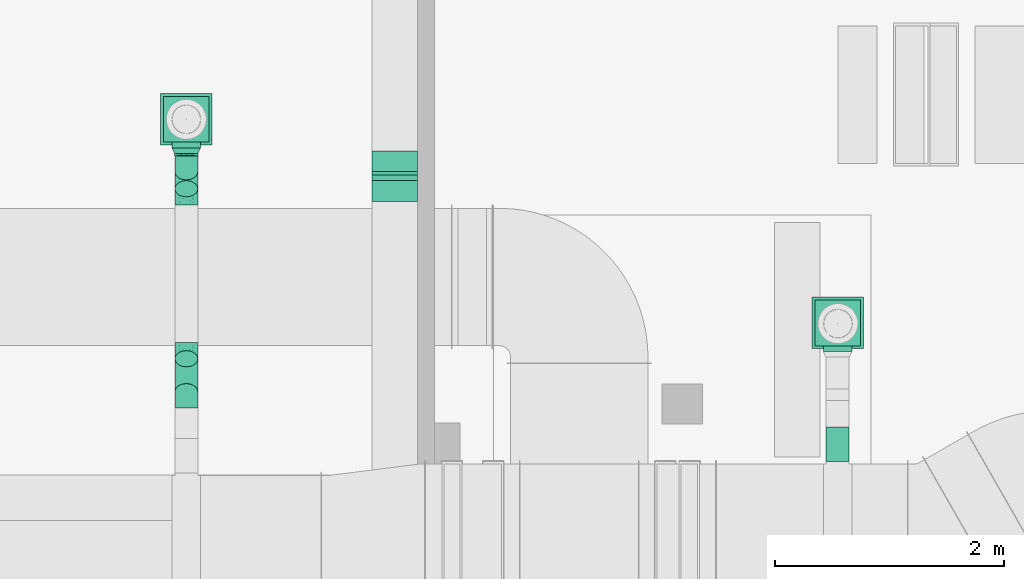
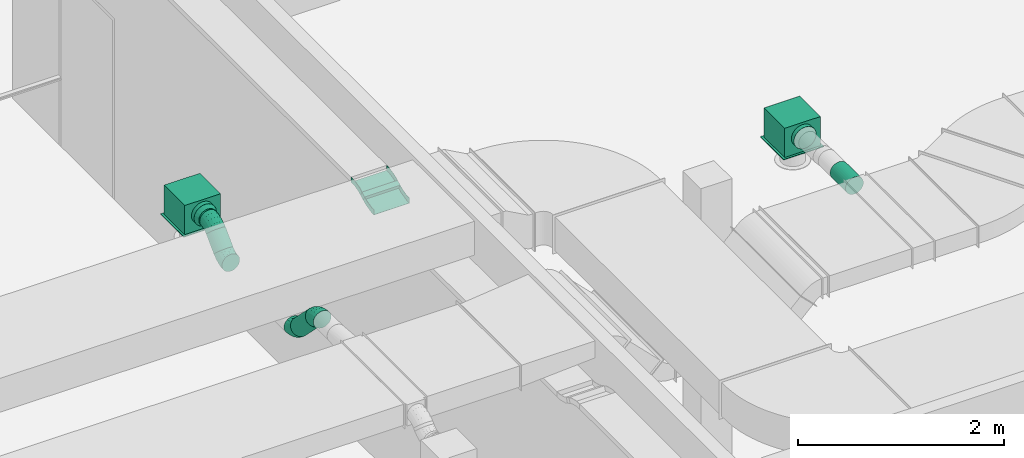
# One storey, part 280 of 302: 8 flow fittings, 4 flow segments, 2 flow terminals.
"""IFC2X3 building model written with IfcOpenShell, lengths in metres."""

import ifcopenshell
import ifcopenshell.guid

model = None  # the IFC model being written
_history = None  # IfcOwnerHistory: only IFC2X3 demands one
_inside = {}  # id of a spatial element -> (the spatial element, [elements in it])
_under = {}  # id of a project, library or spatial element -> (it, [spatial elements below it])
_declared = {}  # id of a project -> (the project, [libraries it declares])
_typed = {}  # id of a type object -> (the type object, [elements of that type])
_made_of = {}  # id of a material, layer set ... -> (it, [elements and type objects made of it])


def new_model(schema):
    """Start an empty IFC model of exactly this schema.

    Asked for "IFC4X3", IfcOpenShell would pick the latest addendum, in which some entities
    have other attributes; the version numbers below select the first issue.
    IFC2X3 requires an IfcOwnerHistory on every rooted entity: one is made here for all.
    """
    global model, _history
    if schema == "IFC4X3":
        model = ifcopenshell.file(schema_version=(4, 3, 0, 0))
    else:
        model = ifcopenshell.file(schema=schema)
    _inside.clear()
    _under.clear()
    _declared.clear()
    _typed.clear()
    _made_of.clear()
    _history = None
    if model.schema == "IFC2X3":
        org = make("IfcOrganization", Name="unknown")
        user = make(
            "IfcPersonAndOrganization",
            ThePerson=make("IfcPerson", FamilyName="unknown"),
            TheOrganization=org,
        )
        app = make(
            "IfcApplication",
            ApplicationDeveloper=org,
            Version="unknown",
            ApplicationFullName="unknown",
            ApplicationIdentifier="unknown",
        )
        _history = make(
            "IfcOwnerHistory",
            OwningUser=user,
            OwningApplication=app,
            ChangeAction="ADDED",
            CreationDate=0,
        )
    return model


def make(cls, **values):
    """One entity of the class cls with the attributes given. An attribute that is None is left unset."""
    return model.create_entity(
        cls, **{name: value for name, value in values.items() if value is not None}
    )


def entity(cls, *values):
    """Any entity or typed value of the class cls, its attributes in the order of the schema. None: left unset."""
    e = model.create_entity(cls)
    for i, value in enumerate(values):
        if value is not None:
            e[i] = value
    return e


def rooted(cls, **values):
    """An entity with a GlobalId (a new one), such as an element, a storey or a relation."""
    return make(cls, GlobalId=ifcopenshell.guid.new(), OwnerHistory=_history, **values)


def si_unit(unit_type, name, prefix=None):
    """IfcSIUnit, for example si_unit("LENGTHUNIT", "METRE", prefix="MILLI")."""
    return make("IfcSIUnit", UnitType=unit_type, Prefix=prefix, Name=name)


def converted_unit(unit_type, name, factor, base, dimensions=None, offset=None):
    """IfcConversionBasedUnit, such as the inch: factor (a typed value) times the base unit."""
    return make(
        "IfcConversionBasedUnit"
        if offset is None
        else "IfcConversionBasedUnitWithOffset",
        ConversionOffset=offset,
        Dimensions=None
        if dimensions is None
        else entity("IfcDimensionalExponents", *dimensions),
        UnitType=unit_type,
        Name=name,
        ConversionFactor=make(
            "IfcMeasureWithUnit", ValueComponent=factor, UnitComponent=base
        ),
    )


def derived_unit(unit_type, elements):
    """IfcDerivedUnit: a product of units, each with its exponent."""
    return make(
        "IfcDerivedUnit",
        Elements=[
            make("IfcDerivedUnitElement", Unit=unit, Exponent=power)
            for unit, power in elements
        ],
        UnitType=unit_type,
    )


def assignment(units):
    """IfcUnitAssignment: the units of a project."""
    return None if units is None else make("IfcUnitAssignment", Units=units)


def point(xyz):
    """IfcCartesianPoint."""
    return None if xyz is None else make("IfcCartesianPoint", Coordinates=xyz)


def direction(xyz):
    """IfcDirection."""
    return None if xyz is None else make("IfcDirection", DirectionRatios=xyz)


def frame(location, z_axis=None, x_axis=None):
    """IfcAxis2Placement3D, a coordinate frame: its origin and axes. An axis left out is left unset."""
    return make(
        "IfcAxis2Placement3D",
        Location=point(location),
        Axis=direction(z_axis),
        RefDirection=direction(x_axis),
    )


def frame_2d(location, x_axis=None):
    """IfcAxis2Placement2D, a coordinate frame in the plane: its origin and x axis."""
    return make(
        "IfcAxis2Placement2D", Location=point(location), RefDirection=direction(x_axis)
    )


def origin():
    """The frame at (0, 0, 0) with its axes left unset."""
    return frame((0.0, 0.0, 0.0))


def origin_2d_with_axis():
    """The frame at (0, 0) in the plane with the x axis (1, 0) written out."""
    return frame_2d((0.0, 0.0), x_axis=(1.0, 0.0))


def place(relative_to, where):
    """IfcLocalPlacement: puts the frame where relative to a parent placement (None: the world)."""
    return make(
        "IfcLocalPlacement", PlacementRelTo=relative_to, RelativePlacement=where
    )


def context(
    kind, dimensions, precision=None, world=None, true_north=None, identifier=None
):
    """IfcGeometricRepresentationContext, for example the 3D "Model" context."""
    return make(
        "IfcGeometricRepresentationContext",
        ContextIdentifier=identifier,
        ContextType=kind,
        CoordinateSpaceDimension=dimensions,
        Precision=precision,
        WorldCoordinateSystem=world,
        TrueNorth=true_north,
    )


def subcontext(parent, identifier, kind, view, scale=None):
    """IfcGeometricRepresentationSubContext, for example "Body" below "Model"."""
    return make(
        "IfcGeometricRepresentationSubContext",
        ContextIdentifier=identifier,
        ContextType=kind,
        ParentContext=parent,
        TargetScale=scale,
        TargetView=view,
    )


def project(units=None, contexts=None):
    """IfcProject with its units and contexts."""
    return rooted(
        "IfcProject",
        Name="project",
        RepresentationContexts=contexts,
        UnitsInContext=assignment(units),
    )


def spatial(cls, under=None, at=None, **own):
    """A site, building, storey or space (cls), placed at a placement, below another one or the project."""
    s = rooted(cls, ObjectPlacement=at, **own)
    if under is not None:
        _under.setdefault(under.id(), (under, []))[1].append(s)
    return s


def polyline(points):
    """IfcPolyline through the points."""
    return make("IfcPolyline", Points=[point(p) for p in points])


def circle_curve(where, radius):
    """IfcCircle in the frame where."""
    return make("IfcCircle", Position=where, Radius=radius)


def parameter(value):
    """IfcParameterValue: where a trimmed curve begins or ends, as a parameter of its basis curve."""
    return model.create_entity("IfcParameterValue", value)


def trimmed(basis, trim1, trim2, sense, master):
    """IfcTrimmedCurve: the piece of a basis curve between two trims."""
    return make(
        "IfcTrimmedCurve",
        BasisCurve=basis,
        Trim1=trim1,
        Trim2=trim2,
        SenseAgreement=sense,
        MasterRepresentation=master,
    )


def segment(curve, same_sense, transition):
    """IfcCompositeCurveSegment."""
    return make(
        "IfcCompositeCurveSegment",
        Transition=transition,
        SameSense=same_sense,
        ParentCurve=curve,
    )


def composite_curve(segments, self_intersect=None):
    """IfcCompositeCurve: segments joined end to end."""
    return make("IfcCompositeCurve", Segments=segments, SelfIntersect=self_intersect)


def profile(cls, at=None, kind="AREA", **sizes):
    """A parametric profile (cls). Its sizes go by their IFC names, for example OverallWidth=200.0."""
    return make(cls, ProfileType=kind, Position=at, **sizes)


def rectangle(**sizes):
    """IfcRectangleProfileDef."""
    return profile("IfcRectangleProfileDef", **sizes)


def circle(**sizes):
    """IfcCircleProfileDef."""
    return profile("IfcCircleProfileDef", **sizes)


def outline(outer, holes=None, kind="AREA"):
    """IfcArbitraryClosedProfileDef: a profile drawn as a closed curve; with holes, ...WithVoids."""
    if holes is None:
        return make("IfcArbitraryClosedProfileDef", ProfileType=kind, OuterCurve=outer)
    return make(
        "IfcArbitraryProfileDefWithVoids",
        ProfileType=kind,
        OuterCurve=outer,
        InnerCurves=holes,
    )


def extrude(swept, where, along, depth):
    """IfcExtrudedAreaSolid: the profile swept, set in the frame where, extruded along a direction by depth."""
    return make(
        "IfcExtrudedAreaSolid",
        SweptArea=swept,
        Position=where,
        ExtrudedDirection=direction(along),
        Depth=depth,
    )


def faces_of(points, faces, orient=None, outer=None):
    """IfcFace entities. A face is a list of loops; a loop is a list of indices into points, from 0.

    orient and outer hold one flag for each loop. By default every Orientation is true, the
    first loop of a face is its IfcFaceOuterBound and the others are IfcFaceBound.
    """
    made = []
    for i, loops in enumerate(faces):
        bounds = []
        for j, loop in enumerate(loops):
            is_outer = j == 0 if outer is None else outer[i][j]
            bounds.append(
                make(
                    "IfcFaceOuterBound" if is_outer else "IfcFaceBound",
                    Bound=make("IfcPolyLoop", Polygon=[points[k] for k in loop]),
                    Orientation=True if orient is None else orient[i][j],
                )
            )
        made.append(make("IfcFace", Bounds=bounds))
    return made


def faceted_brep(points, faces, orient=None, outer=None, voids=None):
    """IfcFacetedBrep: a solid bounded by flat faces; with voids (closed shells), ...WithVoids."""
    shared = [point(p) for p in points]
    hull = make("IfcClosedShell", CfsFaces=faces_of(shared, faces, orient, outer))
    if voids is None:
        return make("IfcFacetedBrep", Outer=hull)
    return make(
        "IfcFacetedBrepWithVoids",
        Outer=hull,
        Voids=[
            make(cls, CfsFaces=faces_of(shared, fs, o, b)) for cls, fs, o, b in voids
        ],
    )


def shape(context_of_items, identifier, shape_type, items):
    """IfcShapeRepresentation: the items that make up one representation, for example the "Body"."""
    return make(
        "IfcShapeRepresentation",
        ContextOfItems=context_of_items,
        RepresentationIdentifier=identifier,
        RepresentationType=shape_type,
        Items=items,
    )


def source(mapping_origin, context_of_items, identifier, shape_type, items):
    """IfcRepresentationMap: a shape defined once, which mapped items show again and again."""
    return make(
        "IfcRepresentationMap",
        MappingOrigin=mapping_origin,
        MappedRepresentation=shape(context_of_items, identifier, shape_type, items),
    )


def transform(
    local_origin,
    x_axis=None,
    y_axis=None,
    z_axis=None,
    scale=None,
    scale2=None,
    scale3=None,
    uniform=True,
):
    """IfcCartesianTransformationOperator3D, or its non-uniform kind. x_axis, y_axis, z_axis: its Axis1, 2, 3."""
    if uniform:
        return make(
            "IfcCartesianTransformationOperator3D",
            Axis1=direction(x_axis),
            Axis2=direction(y_axis),
            LocalOrigin=point(local_origin),
            Scale=scale,
            Axis3=direction(z_axis),
        )
    return make(
        "IfcCartesianTransformationOperator3DnonUniform",
        Axis1=direction(x_axis),
        Axis2=direction(y_axis),
        LocalOrigin=point(local_origin),
        Scale=scale,
        Axis3=direction(z_axis),
        Scale2=scale2,
        Scale3=scale3,
    )


def mapped(mapping_source, mapping_target):
    """IfcMappedItem: shows the shape of a source again, moved by a transform."""
    return make(
        "IfcMappedItem", MappingSource=mapping_source, MappingTarget=mapping_target
    )


def material(Name=None, Category=None):
    """IfcMaterial."""
    return make("IfcMaterial", Name=Name, Category=Category)


def material_list(materials):
    """IfcMaterialList."""
    return make("IfcMaterialList", Materials=materials)


def made_of(thing, what):
    """Note that an element or type object is made of a material, layer set ...; save() writes the relation."""
    if what is not None:
        _made_of.setdefault(what.id(), (what, []))[1].append(thing)
    return thing


def type_object(cls, material=None, **own):
    """A type object (cls), such as IfcWallType, which elements share."""
    return made_of(rooted(cls, **own), material)


def type_shapes(of_type, sources):
    """Give a type object the sources (RepresentationMaps) that its elements show as mapped items."""
    of_type.RepresentationMaps = sources


def element(
    cls,
    number,
    at=None,
    inside=None,
    cuts=None,
    type_object=None,
    material=None,
    context=None,
    identifier="Body",
    shape_type=None,
    held_by="IfcProductDefinitionShape",
    body=None,
    shapes=None,
    **own,
):
    """One element of the class cls, such as IfcWall. Its Tag is "e" and its number.

    at: its placement. inside: the storey or other place that contains it. cuts: it is an
    opening in that element (IfcRelVoidsElement). A single representation is given by context,
    identifier, shape_type and body (its items); several are given by shapes. held_by: the class
    of the entity that holds the representations. save() writes the other relations.
    """
    e = rooted(cls, Tag="e%d" % number, ObjectPlacement=at, **own)
    if body is not None:
        shapes = [shape(context, identifier, shape_type, body)]
    if shapes is not None:
        e.Representation = make(held_by, Representations=shapes)
    if inside is not None:
        _inside.setdefault(inside.id(), (inside, []))[1].append(e)
    if cuts is not None:
        rooted(
            "IfcRelVoidsElement", RelatingBuildingElement=cuts, RelatedOpeningElement=e
        )
    if type_object is not None:
        _typed.setdefault(type_object.id(), (type_object, []))[1].append(e)
    return made_of(e, material)


def aggregate(whole, parts):
    """IfcRelAggregates: a whole, such as a stair, and the parts it consists of."""
    return rooted("IfcRelAggregates", RelatingObject=whole, RelatedObjects=parts)


def save(model, path):
    """Write the relations noted so far, then the file.

    IfcRelAggregates (storeys below a building ...), IfcRelContainedInSpatialStructure (elements
    in a storey), IfcRelDefinesByType, IfcRelAssociatesMaterial and IfcRelDeclares: one each for
    every whole, place, type object, material and project.
    """
    for whole, parts in _under.values():
        aggregate(whole, parts)
    for where, things in _inside.values():
        rooted(
            "IfcRelContainedInSpatialStructure",
            RelatedElements=things,
            RelatingStructure=where,
        )
    for kind, things in _typed.values():
        rooted("IfcRelDefinesByType", RelatedObjects=things, RelatingType=kind)
    for what, things in _made_of.values():
        rooted("IfcRelAssociatesMaterial", RelatedObjects=things, RelatingMaterial=what)
    for by, libraries in _declared.values():
        rooted("IfcRelDeclares", RelatingContext=by, RelatedDefinitions=libraries)
    model.write(path)


model = new_model("IFC2X3")

# Units and contexts
model_context = context("Model", 3, precision=1e-05, world=origin(), true_north=direction((6.12303176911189e-17, 1.0)))
body_context = subcontext(model_context, "Body", "Model", "MODEL_VIEW")
ifc_project = project(units=[si_unit("LENGTHUNIT", "METRE"), si_unit("AREAUNIT", "SQUARE_METRE"), si_unit("VOLUMEUNIT", "CUBIC_METRE"), converted_unit("PLANEANGLEUNIT", "DEGREE", entity("IfcRatioMeasure", 0.0174532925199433), si_unit("PLANEANGLEUNIT", "RADIAN"), dimensions=[0, 0, 0, 0, 0, 0, 0]), si_unit("MASSUNIT", "GRAM", prefix="KILO"), derived_unit("MASSDENSITYUNIT", [(si_unit("MASSUNIT", "GRAM", prefix="KILO"), 1), (si_unit("LENGTHUNIT", "METRE"), -3)]), derived_unit("MOMENTOFINERTIAUNIT", [(si_unit("LENGTHUNIT", "METRE"), 4)]), si_unit("TIMEUNIT", "SECOND"), si_unit("FREQUENCYUNIT", "HERTZ"), si_unit("THERMODYNAMICTEMPERATUREUNIT", "DEGREE_CELSIUS"), derived_unit("THERMALTRANSMITTANCEUNIT", [(si_unit("MASSUNIT", "GRAM", prefix="KILO"), 1), (si_unit("THERMODYNAMICTEMPERATUREUNIT", "KELVIN"), -1), (si_unit("TIMEUNIT", "SECOND"), -3)]), derived_unit("VOLUMETRICFLOWRATEUNIT", [(si_unit("LENGTHUNIT", "METRE"), 3), (si_unit("TIMEUNIT", "SECOND"), -1)]), si_unit("ELECTRICCURRENTUNIT", "AMPERE"), si_unit("ELECTRICVOLTAGEUNIT", "VOLT"), si_unit("POWERUNIT", "WATT"), si_unit("FORCEUNIT", "NEWTON", prefix="KILO"), si_unit("ILLUMINANCEUNIT", "LUX"), si_unit("LUMINOUSFLUXUNIT", "LUMEN"), si_unit("LUMINOUSINTENSITYUNIT", "CANDELA"), derived_unit("USERDEFINED", [(si_unit("MASSUNIT", "GRAM", prefix="KILO"), -1), (si_unit("LENGTHUNIT", "METRE"), -2), (si_unit("TIMEUNIT", "SECOND"), 3), (si_unit("LUMINOUSFLUXUNIT", "LUMEN"), 1)]), derived_unit("LINEARVELOCITYUNIT", [(si_unit("LENGTHUNIT", "METRE"), 1), (si_unit("TIMEUNIT", "SECOND"), -1)]), si_unit("PRESSUREUNIT", "PASCAL"), derived_unit("USERDEFINED", [(si_unit("LENGTHUNIT", "METRE"), -2), (si_unit("MASSUNIT", "GRAM", prefix="KILO"), 1), (si_unit("TIMEUNIT", "SECOND"), -2)]), derived_unit("LINEARFORCEUNIT", [(si_unit("MASSUNIT", "GRAM", prefix="KILO"), 1), (si_unit("LENGTHUNIT", "METRE"), 1), (si_unit("TIMEUNIT", "SECOND"), -2), (si_unit("LENGTHUNIT", "METRE"), -1)]), derived_unit("PLANARFORCEUNIT", [(si_unit("MASSUNIT", "GRAM", prefix="KILO"), 1), (si_unit("LENGTHUNIT", "METRE"), 1), (si_unit("TIMEUNIT", "SECOND"), -2), (si_unit("LENGTHUNIT", "METRE"), -2)])], contexts=[model_context])

# Site, building, storey
site_placement = place(None, origin())
site = spatial("IfcSite", under=ifc_project, at=site_placement, Name="Default", CompositionType="ELEMENT")
building_placement = place(site_placement, origin())
building = spatial("IfcBuilding", under=site, at=building_placement, CompositionType="ELEMENT")
storey_placement = place(building_placement, frame((0.0, 0.0, -1.3)))
storey = spatial("IfcBuildingStorey", under=building, at=storey_placement, Name="00_EG", CompositionType="ELEMENT", Elevation=-1.3)

# Flow segment
cable_carrier_segment_type = type_object("IfcCableCarrierSegmentType", Name="Kabeltrasse mit Formteilen:Channel Cable Tray", PredefinedType="CABLETRAYSEGMENT")
flow_segment_1_placement = place(storey_placement, origin())
element("IfcFlowSegment", 1, at=flow_segment_1_placement, inside=storey, type_object=cable_carrier_segment_type, Name="Kabeltrasse mit Formteilen:Channel Cable Tray", ObjectType="Kabeltrasse mit Formteilen:Channel Cable Tray", context=body_context, shape_type="SweptSolid", body=[
    extrude(rectangle(XDim=0.0600000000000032, YDim=0.0578549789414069, at=frame_2d((1.93074722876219e-15, -9.8358821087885e-16), x_axis=(0.0, 1.0))), frame((-220.285111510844, 25.4381035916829, 4.79), z_axis=(1.0, 0.0, 0.0), x_axis=(0.0, 0.891006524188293, 0.453990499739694)), (0.0, 0.0, 1.0), 0.399999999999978),
])

# Flow fittings
ifc_material = material(Name="<Unnamed>")
cable_carrier_fitting_type_1 = type_object("IfcCableCarrierFittingType", Name="Kabeltrasse - Bogen außen vertikal:Standard", PredefinedType="NOTDEFINED", material=ifc_material)
shared_shape_1 = source(origin(), body_context, "Body", "Brep", [
    faceted_brep([(-0.103233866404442, 0.0300000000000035, 0.199999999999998), (-0.103233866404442, 0.0300000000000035, 0.197460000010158), (-0.103233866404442, -0.0274600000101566, 0.197460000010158), (-0.103233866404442, -0.0274600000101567, -0.197460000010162), (-0.103233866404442, 0.0300000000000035, -0.197460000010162), (-0.103233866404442, 0.0300000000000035, -0.200000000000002), (-0.103233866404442, -0.0299999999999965, -0.200000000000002), (-0.103233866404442, -0.0299999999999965, 0.199999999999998), (0.105601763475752, -0.0201369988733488, 0.199999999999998), (0.0783623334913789, -0.0735973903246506, 0.199999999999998), (0.0783623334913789, -0.0735973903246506, -0.200000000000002), (0.105601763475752, -0.0201369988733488, -0.200000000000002), (0.105601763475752, -0.0201369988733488, -0.197460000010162), (0.0795154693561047, -0.071334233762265, -0.197460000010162), (0.0795154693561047, -0.071334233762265, 0.197460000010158), (0.105601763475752, -0.0201369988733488, 0.197460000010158), (-0.0558907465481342, -0.0299999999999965, 0.199999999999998), (0.036179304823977, -0.052104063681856, 0.199999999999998), (0.0570912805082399, 0.00458032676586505, 0.199999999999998), (-0.0487892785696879, 0.0300000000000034, 0.199999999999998), (-0.0558907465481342, -0.0299999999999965, -0.200000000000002), (-0.0487892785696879, 0.0300000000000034, -0.200000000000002), (0.0570912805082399, 0.00458032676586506, -0.200000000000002), (0.036179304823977, -0.052104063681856, -0.200000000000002), (-0.0487892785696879, 0.0300000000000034, -0.197460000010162), (-0.0555901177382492, -0.0274600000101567, -0.197460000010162), (0.0370645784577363, -0.0497044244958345, -0.197460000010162), (0.0570912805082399, 0.00458032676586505, -0.197460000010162), (-0.0555901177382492, -0.0274600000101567, 0.197460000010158), (-0.0487892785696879, 0.0300000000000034, 0.197460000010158), (0.0570912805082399, 0.00458032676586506, 0.197460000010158), (0.0370645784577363, -0.0497044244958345, 0.197460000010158)], [[[0, 1, 2, 3, 4, 5, 6, 7]], [[8, 9, 10, 11, 12, 13, 14, 15]], [[7, 16, 17, 9, 8, 18, 19, 0]], [[6, 20, 16, 7]], [[5, 21, 22, 11, 10, 23, 20, 6]], [[4, 24, 21, 5]], [[3, 25, 26, 13, 12, 27, 24, 4]], [[2, 28, 25, 3]], [[1, 29, 30, 15, 14, 31, 28, 2]], [[0, 19, 29, 1]], [[20, 23, 17, 16]], [[24, 27, 22, 21]], [[28, 31, 26, 25]], [[19, 18, 30, 29]], [[23, 10, 9, 17]], [[27, 12, 11, 22]], [[31, 14, 13, 26]], [[18, 8, 15, 30]]]),
])
type_shapes(cable_carrier_fitting_type_1, [shared_shape_1])
flow_fitting_1_placement = place(storey_placement, frame((-220.085111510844, 25.5558602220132, 4.85), z_axis=(1.0, 0.0, 0.0), x_axis=(0.0, 0.891006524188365, 0.453990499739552)))
element("IfcFlowFitting", 2, at=flow_fitting_1_placement, inside=storey, type_object=cable_carrier_fitting_type_1, material=ifc_material, Name="Kabeltrasse - Bogen außen vertikal:Standard", ObjectType="Kabeltrasse - Bogen außen vertikal:Standard", context=body_context, shape_type="MappedRepresentation", body=[
    mapped(shared_shape_1, transform((0.0, 0.0, 0.0), scale=1.0)),
])
cable_carrier_fitting_type_2 = type_object("IfcCableCarrierFittingType", Name="Kabeltrasse - Bogen innen vertikal:Standard", PredefinedType="NOTDEFINED", material=ifc_material)
shared_shape_2 = source(origin(), body_context, "Body", "Brep", [
    faceted_brep([(-0.103233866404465, -0.0299999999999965, 0.199999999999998), (-0.103233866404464, 0.0300000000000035, 0.199999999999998), (-0.103233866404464, 0.0300000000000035, -0.200000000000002), (-0.103233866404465, -0.0299999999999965, -0.200000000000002), (-0.103233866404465, -0.0299999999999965, -0.197460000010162), (-0.103233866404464, 0.0274600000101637, -0.197460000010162), (-0.103233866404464, 0.0274600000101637, 0.197460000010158), (-0.103233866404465, -0.0299999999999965, 0.197460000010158), (0.0783623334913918, -0.0735973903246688, 0.199999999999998), (0.0783623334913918, -0.0735973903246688, 0.197460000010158), (0.104448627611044, -0.0224001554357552, 0.197460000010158), (0.104448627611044, -0.0224001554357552, -0.197460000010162), (0.0783623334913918, -0.0735973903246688, -0.197460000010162), (0.0783623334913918, -0.0735973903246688, -0.200000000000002), (0.10560176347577, -0.0201369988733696, -0.200000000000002), (0.10560176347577, -0.0201369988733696, 0.199999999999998), (-0.0558907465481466, -0.0299999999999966, 0.197460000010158), (-0.0558907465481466, -0.0299999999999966, 0.199999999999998), (-0.0490899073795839, 0.0274600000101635, 0.197460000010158), (0.0562060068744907, 0.00218068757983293, 0.197460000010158), (0.036179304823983, -0.0521040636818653, 0.197460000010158), (-0.0490899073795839, 0.0274600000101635, -0.197460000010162), (-0.0558907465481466, -0.0299999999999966, -0.197460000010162), (0.036179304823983, -0.0521040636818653, -0.197460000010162), (0.0562060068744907, 0.00218068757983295, -0.197460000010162), (-0.0558907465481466, -0.0299999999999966, -0.200000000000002), (-0.0487892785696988, 0.0300000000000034, -0.200000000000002), (0.0570912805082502, 0.00458032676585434, -0.200000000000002), (0.036179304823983, -0.0521040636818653, -0.200000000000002), (-0.0487892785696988, 0.0300000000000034, 0.199999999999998), (0.036179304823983, -0.0521040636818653, 0.199999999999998), (0.0570912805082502, 0.00458032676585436, 0.199999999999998)], [[[0, 1, 2, 3, 4, 5, 6, 7]], [[8, 9, 10, 11, 12, 13, 14, 15]], [[7, 16, 17, 0]], [[6, 18, 19, 10, 9, 20, 16, 7]], [[5, 21, 18, 6]], [[4, 22, 23, 12, 11, 24, 21, 5]], [[3, 25, 22, 4]], [[2, 26, 27, 14, 13, 28, 25, 3]], [[1, 29, 26, 2]], [[0, 17, 30, 8, 15, 31, 29, 1]], [[16, 20, 30, 17]], [[21, 24, 19, 18]], [[25, 28, 23, 22]], [[29, 31, 27, 26]], [[20, 9, 8, 30]], [[24, 11, 10, 19]], [[28, 13, 12, 23]], [[31, 15, 14, 27]]]),
])
type_shapes(cable_carrier_fitting_type_2, [shared_shape_2])
flow_fitting_2_placement = place(storey_placement, frame((-220.085111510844, 25.3203469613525, 4.72999999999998), z_axis=(1.0, 0.0, 0.0), x_axis=(0.0, -0.89100652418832, -0.453990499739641)))
element("IfcFlowFitting", 3, at=flow_fitting_2_placement, inside=storey, type_object=cable_carrier_fitting_type_2, material=ifc_material, Name="Kabeltrasse - Bogen innen vertikal:Standard", ObjectType="Kabeltrasse - Bogen innen vertikal:Standard", context=body_context, shape_type="MappedRepresentation", body=[
    mapped(shared_shape_2, transform((0.0, 0.0, 0.0), scale=1.0)),
])

# Flow segments
duct_segment_type = type_object("IfcDuctSegmentType", Name="Rund:STR_Segment_RND_GS_EA", PredefinedType="NOTDEFINED")
flow_segment_2_placement = place(storey_placement, origin())
element("IfcFlowSegment", 4, at=flow_segment_2_placement, inside=storey, type_object=duct_segment_type, Name="Rund:STR_Segment_RND_GS_EA", ObjectType="Rund:STR_Segment_RND_GS_EA", context=body_context, shape_type="SweptSolid", body=[
    extrude(circle(Radius=0.1, at=origin_2d_with_axis()), frame((-221.905155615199, 25.6179660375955, 4.985), z_axis=(0.0, 1.0, 0.0), x_axis=(-1.0, 0.0, 0.0)), (0.0, 0.0, 1.0), 0.017157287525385),
])
flow_segment_3_placement = place(storey_placement, origin())
element("IfcFlowSegment", 5, at=flow_segment_3_placement, inside=storey, type_object=duct_segment_type, Name="Rund:STR_Segment_RND_GS_EA", ObjectType="Rund:STR_Segment_RND_GS_EA", context=body_context, shape_type="SweptSolid", body=[
    extrude(circle(Radius=0.1, at=frame_2d((3.46517481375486e-14, 4.59421614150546e-15), x_axis=(1.0, 0.0))), frame((-221.905155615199, 25.3287019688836, 4.77857864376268), z_axis=(0.0, 0.707106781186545, 0.70710678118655), x_axis=(-1.0, 0.0, 0.0)), (0.0, 0.0, 1.0), 0.209081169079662),
])
flow_segment_4_placement = place(storey_placement, origin())
element("IfcFlowSegment", 6, at=flow_segment_4_placement, inside=storey, type_object=duct_segment_type, Name="Rund:STR_Segment_RND_GS_EA", ObjectType="Rund:STR_Segment_RND_GS_EA", context=body_context, shape_type="SweptSolid", body=[
    extrude(circle(Radius=0.1, at=origin_2d_with_axis()), frame((-221.905155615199, 23.8432369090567, 4.77857864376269), z_axis=(0.0, -0.707106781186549, 0.707106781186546), x_axis=(-1.0, 0.0, 0.0)), (0.0, 0.0, 1.0), 0.407071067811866),
])

# Flow terminals
ifc_material_list_1 = material_list([ifc_material, ifc_material, ifc_material])
air_terminal_type_1 = type_object("IfcAirTerminalType", Name="Drallauslass Zuluft seitlich:600 quadratisch", PredefinedType="NOTDEFINED", material=ifc_material_list_1)
shared_shape_3 = source(origin(), body_context, "Body", "SweptSolid", [
    extrude(rectangle(XDim=0.449999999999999, YDim=0.450000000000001, at=origin_2d_with_axis()), frame((0.0, 0.0, 2.692), z_axis=(0.0, 0.0, 1.0), x_axis=(-1.0, 0.0, 0.0)), (0.0, 0.0, 1.0), 0.00800000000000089),
    extrude(circle(Radius=0.125, at=frame_2d((1.22275294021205e-18, 0.0), x_axis=(1.0, 0.0))), frame((-0.25, 0.0, 2.89500000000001), z_axis=(1.0, 0.0, 0.0), x_axis=(0.0, 1.0, 0.0)), (0.0, 0.0, 1.0), 0.0499999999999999),
    extrude(rectangle(XDim=0.399999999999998, YDim=0.4, at=origin_2d_with_axis()), frame((0.0, 0.0, 2.7), z_axis=(0.0, 0.0, 1.0), x_axis=(-1.0, 0.0, 0.0)), (0.0, 0.0, 1.0), 0.345000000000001),
])
type_shapes(air_terminal_type_1, [shared_shape_3])
flow_terminal_1_placement = place(storey_placement, frame((-221.905155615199, 25.9351233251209, 2.08999999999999), z_axis=(0.0, 0.0, 1.0), x_axis=(0.0, 1.0, 0.0)))
element("IfcFlowTerminal", 7, at=flow_terminal_1_placement, inside=storey, type_object=air_terminal_type_1, material=ifc_material, Name="Drallauslass Zuluft seitlich:600 quadratisch", ObjectType="Drallauslass Zuluft seitlich:600 quadratisch", context=body_context, shape_type="MappedRepresentation", body=[
    mapped(shared_shape_3, transform((0.0, 0.0, 0.0), scale=1.0)),
])
ifc_material_list_2 = material_list([ifc_material, ifc_material, ifc_material])
air_terminal_type_2 = type_object("IfcAirTerminalType", Name="Drallauslass Zuluft seitlich:600 quadratisch", PredefinedType="NOTDEFINED", material=ifc_material_list_2)
shared_shape_4 = source(origin(), body_context, "Body", "SweptSolid", [
    extrude(rectangle(XDim=0.450000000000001, YDim=0.449999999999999, at=origin_2d_with_axis()), frame((0.0, 0.0, 2.692), z_axis=(0.0, 0.0, 1.0), x_axis=(0.0, 1.0, 0.0)), (0.0, 0.0, 1.0), 0.00800000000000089),
    extrude(circle(Radius=0.125, at=frame_2d((1.22275294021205e-18, -5.41433564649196e-16), x_axis=(1.0, 0.0))), frame((-0.25, 0.0, 2.89500000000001), z_axis=(1.0, 0.0, 0.0), x_axis=(0.0, -1.0, 0.0)), (0.0, 0.0, 1.0), 0.0499999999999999),
    extrude(rectangle(XDim=0.4, YDim=0.399999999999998, at=origin_2d_with_axis()), frame((0.0, 0.0, 2.7), z_axis=(0.0, 0.0, 1.0), x_axis=(0.0, 1.0, 0.0)), (0.0, 0.0, 1.0), 0.345000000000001),
])
type_shapes(air_terminal_type_2, [shared_shape_4])
flow_terminal_2_placement = place(storey_placement, frame((-216.214864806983, 24.156408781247, 2.09), z_axis=(0.0, 0.0, 1.0), x_axis=(0.0, 1.0, 0.0)))
element("IfcFlowTerminal", 8, at=flow_terminal_2_placement, inside=storey, type_object=air_terminal_type_2, material=ifc_material, Name="Drallauslass Zuluft seitlich:600 quadratisch", ObjectType="Drallauslass Zuluft seitlich:600 quadratisch", context=body_context, shape_type="MappedRepresentation", body=[
    mapped(shared_shape_4, transform((0.0, 0.0, 0.0), scale=1.0)),
])

# Flow fittings
duct_fitting_type_1 = type_object("IfcDuctFittingType", Name="STR_RND_Transition:STR_Transition_RND_GS_EA", PredefinedType="NOTDEFINED", material=ifc_material)
shared_shape_5 = source(origin(), body_context, "Body", "Brep", [
    faceted_brep([(0.0500000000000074, -0.0587785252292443, -0.0809016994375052), (0.0500000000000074, -0.0309016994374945, -0.0951056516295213), (0.0500000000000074, 0.0, -0.10000000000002), (0.0500000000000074, 0.0309016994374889, -0.0951056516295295), (0.0500000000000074, 0.058778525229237, -0.0809016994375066), (0.0500000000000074, 0.0809016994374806, -0.0587785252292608), (0.0500000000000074, 0.0951056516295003, -0.0309016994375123), (0.0500000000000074, 0.0999999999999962, 0.0), (0.0500000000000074, 0.0951056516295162, 0.0309016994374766), (0.0500000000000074, 0.0809016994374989, 0.0587785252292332), (0.0500000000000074, 0.0587785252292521, 0.0809016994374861), (0.0500000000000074, 0.0309016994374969, 0.0951056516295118), (0.0500000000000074, 0.0, 0.0999999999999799), (0.0500000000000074, -0.0309016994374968, 0.0951056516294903), (0.0500000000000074, -0.058778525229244, 0.0809016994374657), (0.0500000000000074, -0.0809016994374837, 0.0587785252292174), (0.0500000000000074, -0.0951056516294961, 0.0309016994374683), (0.0500000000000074, -0.100000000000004, 0.0), (0.0500000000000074, -0.0951056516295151, -0.030901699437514), (0.0500000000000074, -0.0809016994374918, -0.0587785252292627), (0.0, -0.124999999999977, 0.0), (0.0, -0.118882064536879, 0.038627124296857), (0.0, -0.101127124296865, 0.073473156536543), (0.0, -0.0734731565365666, 0.101127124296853), (0.0, -0.0386271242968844, 0.118882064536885), (0.0, 0.0, 0.125000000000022), (0.0, 0.0386271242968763, 0.11888206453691), (0.0, 0.0734731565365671, 0.101127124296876), (0.0, 0.101127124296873, 0.0734731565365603), (0.0, 0.118882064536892, 0.038627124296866), (0.0, 0.124999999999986, 0.0), (0.0, 0.118882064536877, -0.0386271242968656), (0.0, 0.101127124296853, -0.0734731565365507), (0.0, 0.0734731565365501, -0.101127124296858), (0.0, 0.0386271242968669, -0.118882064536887), (0.0, 0.0, -0.124999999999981), (0.0, -0.0386271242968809, -0.118882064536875), (0.0, -0.0734731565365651, -0.101127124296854), (0.0, -0.101127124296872, -0.0734731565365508), (0.0, -0.118882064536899, -0.0386271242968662)], [[[0, 1, 2, 3, 4, 5, 6, 7, 8, 9, 10, 11, 12, 13, 14, 15, 16, 17, 18, 19]], [[20, 21, 22, 23, 24, 25, 26, 27, 28, 29, 30, 31, 32, 33, 34, 35, 36, 37, 38, 39]], [[26, 25, 12, 11]], [[27, 26, 11, 10]], [[10, 9, 28, 27]], [[8, 7, 30, 29]], [[9, 8, 29, 28]], [[21, 20, 17, 16]], [[22, 21, 16, 15]], [[15, 14, 23, 22]], [[13, 12, 25, 24]], [[14, 13, 24, 23]], [[36, 35, 2, 1]], [[37, 36, 1, 0]], [[0, 19, 38, 37]], [[18, 17, 20, 39]], [[19, 18, 39, 38]], [[31, 30, 7, 6]], [[32, 31, 6, 5]], [[5, 4, 33, 32]], [[3, 2, 35, 34]], [[4, 3, 34, 33]]]),
])
type_shapes(duct_fitting_type_1, [shared_shape_5])
flow_fitting_3_placement = place(storey_placement, frame((-221.905155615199, 25.6851233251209, 4.985), z_axis=(0.0, 0.0, 1.0), x_axis=(0.0, -1.0, 0.0)))
element("IfcFlowFitting", 9, at=flow_fitting_3_placement, inside=storey, type_object=duct_fitting_type_1, material=ifc_material, Name="STR_RND_Transition:STR_Transition_RND_GS_EA", ObjectType="STR_RND_Transition:STR_Transition_RND_GS_EA", context=body_context, shape_type="MappedRepresentation", body=[
    mapped(shared_shape_5, transform((0.0, 0.0, 0.0), scale=1.0)),
])
duct_fitting_type_2 = type_object("IfcDuctFittingType", Name="STR_OVL_Transition:STR_Transition_OVL_GS_EA", PredefinedType="NOTDEFINED", material=ifc_material)
shared_shape_6 = source(origin(), body_context, "Body", "SweptSolid", [
    extrude(outline(composite_curve([segment(trimmed(circle_curve(frame_2d((0.00158749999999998, -0.00158750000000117), x_axis=(1.0, 0.0)), 0.0984125), [parameter(270.0)], [parameter(360.0)], True, "PARAMETER"), True, "CONTINUOUS"), segment(polyline([(0.1, -0.00158750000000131), (0.1, 0.00158749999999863)]), True, "CONTINUOUS"), segment(trimmed(circle_curve(frame_2d((0.00158749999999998, 0.0015874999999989), x_axis=(0.0, 1.0)), 0.0984125), [parameter(270.0)], [parameter(360.0)], True, "PARAMETER"), True, "CONTINUOUS"), segment(polyline([(0.00158749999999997, 0.0999999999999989), (-0.00158749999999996, 0.0999999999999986)]), True, "CONTINUOUS"), segment(trimmed(circle_curve(frame_2d((-0.00158749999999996, 0.00158749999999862), x_axis=(-1.0, 0.0)), 0.0984125), [parameter(270.0)], [parameter(359.999999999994)], True, "PARAMETER"), True, "CONTINUOUS"), segment(polyline([(-0.1, 0.00158749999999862), (-0.1, -0.00158750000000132)]), True, "CONTINUOUS"), segment(trimmed(circle_curve(frame_2d((-0.00158750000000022, -0.00158750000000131), x_axis=(0.0, -1.0)), 0.0984125), [parameter(270.0)], [parameter(5.64866511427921e-12)], True, "PARAMETER"), True, "CONTINUOUS"), segment(polyline([(-0.00158749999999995, -0.100000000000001), (0.00158749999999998, -0.100000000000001)]), True, "CONTINUOUS")], self_intersect=False)), frame((0.0, 0.0, 0.0), z_axis=(1.0, 0.0, 0.0), x_axis=(0.0, -1.0, 0.0)), (0.0, 0.0, 1.0), 0.300000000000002),
])
type_shapes(duct_fitting_type_2, [shared_shape_6])
flow_fitting_4_placement = place(storey_placement, frame((-216.214864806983, 22.9473454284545, 5.0), z_axis=(0.0, 0.0, 1.0), x_axis=(0.0, 1.0, 0.0)))
element("IfcFlowFitting", 10, at=flow_fitting_4_placement, inside=storey, type_object=duct_fitting_type_2, material=ifc_material, Name="STR_OVL_Transition:STR_Transition_OVL_GS_EA", ObjectType="STR_OVL_Transition:STR_Transition_OVL_GS_EA", context=body_context, shape_type="MappedRepresentation", body=[
    mapped(shared_shape_6, transform((0.0, 0.0, 0.0), scale=1.0)),
])
duct_fitting_type_3 = type_object("IfcDuctFittingType", Name="STR_RND_Elbow:STR_Elbow_RND_GS_EA", PredefinedType="NOTDEFINED", material=ifc_material)
shared_shape_7 = source(origin(), body_context, "Body", "Brep", [
    faceted_brep([(-0.043824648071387, 0.00384294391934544, 0.0999999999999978), (-0.0498532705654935, 0.034150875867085, 0.0951056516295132), (-0.0828427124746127, 0.0309016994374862, 0.0951056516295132), (-0.0828427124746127, 0.0, 0.0999999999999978), (-0.055291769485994, 0.0614920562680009, 0.0809016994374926), (-0.0828427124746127, 0.0587785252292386, 0.0809016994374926), (-0.0596077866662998, 0.0831901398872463, 0.0587785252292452), (-0.0828427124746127, 0.0809016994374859, 0.0587785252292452), (-0.0623788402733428, 0.0971211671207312, 0.0309016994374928), (-0.0828427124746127, 0.0951056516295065, 0.0309016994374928), (-0.0633336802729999, 0.101921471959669, 0.0), (-0.0828427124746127, 0.0999999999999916, 0.0), (-0.0623788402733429, 0.0971211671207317, -0.030901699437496), (-0.0828427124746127, 0.095105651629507, -0.030901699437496), (-0.0596077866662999, 0.0831901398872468, -0.0587785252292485), (-0.0828427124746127, 0.0809016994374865, -0.0587785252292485), (-0.0552917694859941, 0.0614920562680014, -0.0809016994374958), (-0.0828427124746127, 0.0587785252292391, -0.0809016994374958), (-0.0498532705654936, 0.0341508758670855, -0.0951056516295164), (-0.0828427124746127, 0.0309016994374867, -0.0951056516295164), (-0.0438246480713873, 0.00384294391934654, -0.100000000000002), (-0.0828427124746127, 0.0, -0.100000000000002), (-0.0377960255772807, -0.0264649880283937, -0.0951056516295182), (-0.0828427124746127, -0.0309016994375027, -0.0951056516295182), (-0.03235752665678, -0.0538061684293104, -0.0809016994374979), (-0.0828427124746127, -0.0587785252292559, -0.0809016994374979), (-0.028041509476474, -0.0755042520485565, -0.0587785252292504), (-0.0828427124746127, -0.080901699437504, -0.0587785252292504), (-0.0252704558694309, -0.089435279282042, -0.0309016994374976), (-0.0828427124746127, -0.0951056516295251, -0.0309016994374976), (-0.0243156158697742, -0.0942355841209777, 0.0), (-0.0828427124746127, -0.100000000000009, 0.0), (-0.0252704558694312, -0.0894352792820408, 0.0309016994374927), (-0.0828427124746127, -0.0951056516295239, 0.0309016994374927), (-0.0280415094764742, -0.0755042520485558, 0.0587785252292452), (-0.0828427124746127, -0.0809016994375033, 0.0587785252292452), (-0.0323575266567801, -0.0538061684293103, 0.0809016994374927), (-0.0828427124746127, -0.0587785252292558, 0.0809016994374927), (-0.0377960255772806, -0.0264649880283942, 0.0951056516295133), (-0.0828427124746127, -0.0309016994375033, 0.0951056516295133), (-0.00630602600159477, 0.0152240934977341, 0.0999999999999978), (-0.0181315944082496, 0.043773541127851, 0.0951056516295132), (-0.028799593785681, 0.0695283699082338, 0.0809016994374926), (-0.037265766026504, 0.0899675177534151, 0.0587785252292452), (-0.042701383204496, 0.103090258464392, 0.0309016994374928), (-0.0445743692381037, 0.107612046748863, 0.0), (-0.0427013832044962, 0.103090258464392, -0.030901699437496), (-0.0372657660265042, 0.0899675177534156, -0.0587785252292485), (-0.0287995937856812, 0.0695283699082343, -0.0809016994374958), (-0.0181315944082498, 0.0437735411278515, -0.0951056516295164), (-0.0063060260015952, 0.0152240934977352, -0.100000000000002), (0.00551954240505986, -0.0133253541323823, -0.0951056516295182), (0.0161875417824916, -0.0390801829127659, -0.0809016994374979), (0.0246537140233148, -0.0595193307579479, -0.0587785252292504), (0.0300893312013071, -0.072642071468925, -0.0309016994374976), (0.0319623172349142, -0.0771638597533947, 0.0), (0.0300893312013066, -0.0726420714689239, 0.0309016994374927), (0.0246537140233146, -0.0595193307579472, 0.0587785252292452), (0.0161875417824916, -0.0390801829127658, 0.0809016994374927), (0.00551954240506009, -0.0133253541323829, 0.0951056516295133), (0.0282713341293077, 0.0337060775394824, 0.0999999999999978), (0.0111032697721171, 0.0593999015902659, 0.0951056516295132), (-0.00438426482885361, 0.0825786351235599, 0.0809016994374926), (-0.0166752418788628, 0.100973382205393, 0.0587785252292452), (-0.024566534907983, 0.112783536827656, 0.0309016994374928), (-0.0272856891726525, 0.116853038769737, 0.0), (-0.0245665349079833, 0.112783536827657, -0.030901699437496), (-0.0166752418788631, 0.100973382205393, -0.0587785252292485), (-0.00438426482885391, 0.0825786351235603, -0.0809016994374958), (0.0111032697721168, 0.0593999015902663, -0.0951056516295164), (0.0282713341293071, 0.0337060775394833, -0.100000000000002), (0.0454393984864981, 0.00801225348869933, -0.0951056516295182), (0.0609269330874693, -0.0151664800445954, -0.0809016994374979), (0.0732179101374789, -0.0335612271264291, -0.0587785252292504), (0.0811092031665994, -0.0453713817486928, -0.0309016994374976), (0.0838283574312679, -0.0494408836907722, 0.0), (0.0811092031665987, -0.0453713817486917, 0.0309016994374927), (0.0732179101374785, -0.0335612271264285, 0.0587785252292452), (0.0609269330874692, -0.0151664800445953, 0.0809016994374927), (0.0454393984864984, 0.00801225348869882, 0.0951056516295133), (0.0585786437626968, 0.0585786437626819, 0.0999999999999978), (0.0367278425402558, 0.0804294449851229, 0.0951056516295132), (0.0170159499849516, 0.100141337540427, 0.0809016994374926), (0.00137250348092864, 0.11578478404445, 0.0587785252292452), (-0.00867120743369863, 0.125828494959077, 0.0309016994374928), (-0.012132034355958, 0.129289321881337, 0.0), (-0.00867120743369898, 0.125828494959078, -0.030901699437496), (0.00137250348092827, 0.115784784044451, -0.0587785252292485), (0.0170159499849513, 0.100141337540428, -0.0809016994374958), (0.0367278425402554, 0.0804294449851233, -0.0951056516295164), (0.058578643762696, 0.0585786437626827, -0.100000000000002), (0.0804294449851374, 0.0367278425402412, -0.0951056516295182), (0.100141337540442, 0.0170159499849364, -0.0809016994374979), (0.115784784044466, 0.00137250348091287, -0.0587785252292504), (0.125828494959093, -0.0086712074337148, -0.0309016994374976), (0.129289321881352, -0.012132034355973, 0.0), (0.125828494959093, -0.00867120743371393, 0.0309016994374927), (0.115784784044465, 0.00137250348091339, 0.0587785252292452), (0.100141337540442, 0.0170159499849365, 0.0809016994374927), (0.0804294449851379, 0.0367278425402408, 0.0951056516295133)], [[[0, 1, 2, 3]], [[1, 4, 5, 2]], [[4, 6, 7, 5]], [[6, 8, 9, 7]], [[8, 10, 11, 9]], [[10, 12, 13, 11]], [[12, 14, 15, 13]], [[14, 16, 17, 15]], [[16, 18, 19, 17]], [[18, 20, 21, 19]], [[20, 22, 23, 21]], [[22, 24, 25, 23]], [[24, 26, 27, 25]], [[26, 28, 29, 27]], [[28, 30, 31, 29]], [[30, 32, 33, 31]], [[32, 34, 35, 33]], [[34, 36, 37, 35]], [[36, 38, 39, 37]], [[38, 0, 3, 39]], [[40, 41, 1, 0]], [[41, 42, 4, 1]], [[42, 43, 6, 4]], [[43, 44, 8, 6]], [[44, 45, 10, 8]], [[45, 46, 12, 10]], [[46, 47, 14, 12]], [[47, 48, 16, 14]], [[48, 49, 18, 16]], [[49, 50, 20, 18]], [[50, 51, 22, 20]], [[51, 52, 24, 22]], [[52, 53, 26, 24]], [[53, 54, 28, 26]], [[54, 55, 30, 28]], [[55, 56, 32, 30]], [[56, 57, 34, 32]], [[57, 58, 36, 34]], [[58, 59, 38, 36]], [[59, 40, 0, 38]], [[60, 61, 41, 40]], [[61, 62, 42, 41]], [[62, 63, 43, 42]], [[63, 64, 44, 43]], [[64, 65, 45, 44]], [[65, 66, 46, 45]], [[66, 67, 47, 46]], [[67, 68, 48, 47]], [[68, 69, 49, 48]], [[69, 70, 50, 49]], [[70, 71, 51, 50]], [[71, 72, 52, 51]], [[72, 73, 53, 52]], [[73, 74, 54, 53]], [[74, 75, 55, 54]], [[75, 76, 56, 55]], [[76, 77, 57, 56]], [[77, 78, 58, 57]], [[78, 79, 59, 58]], [[79, 60, 40, 59]], [[80, 81, 61, 60]], [[81, 82, 62, 61]], [[82, 83, 63, 62]], [[83, 84, 64, 63]], [[84, 85, 65, 64]], [[85, 86, 66, 65]], [[86, 87, 67, 66]], [[87, 88, 68, 67]], [[88, 89, 69, 68]], [[89, 90, 70, 69]], [[90, 91, 71, 70]], [[91, 92, 72, 71]], [[92, 93, 73, 72]], [[93, 94, 74, 73]], [[94, 95, 75, 74]], [[95, 96, 76, 75]], [[96, 97, 77, 76]], [[97, 98, 78, 77]], [[98, 99, 79, 78]], [[99, 80, 60, 79]], [[3, 2, 5, 7, 9, 11, 13, 15, 17, 19, 21, 23, 25, 27, 29, 31, 33, 35, 37, 39]], [[99, 98, 97, 96, 95, 94, 93, 92, 91, 90, 89, 88, 87, 86, 85, 84, 83, 82, 81, 80]]]),
])
type_shapes(duct_fitting_type_3, [shared_shape_7])
for number, where, z_axis, x_axis in (
    (11, (-221.905155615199, 25.5351233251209, 4.985), (1.0, 0.0, 0.0), (0.0, -1.0, 0.0)),
    (12, (-221.905155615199, 25.2701233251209, 4.72), (-1.0, 0.0, 0.0), (0.0, -0.707106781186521, -0.707106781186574)),
    (13, (-221.905155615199, 23.9018155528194, 4.72000000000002), (-1.0, 0.0, 0.0), (0.0, -1.0, 0.0)),
    (14, (-221.905155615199, 23.4968155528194, 5.12500000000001), (-1.0, 0.0, 0.0), (0.0, 1.0, 0.0)),
):
    element("IfcFlowFitting", number, at=place(storey_placement, frame(where, z_axis=z_axis, x_axis=x_axis)), inside=storey, type_object=duct_fitting_type_3, material=ifc_material, Name="STR_RND_Elbow:STR_Elbow_RND_GS_EA", ObjectType="STR_RND_Elbow:STR_Elbow_RND_GS_EA", context=body_context, shape_type="MappedRepresentation", body=[
        mapped(shared_shape_7, transform((0.0, 0.0, 0.0), scale=1.0)),
    ])

save(model, "model.ifc")
